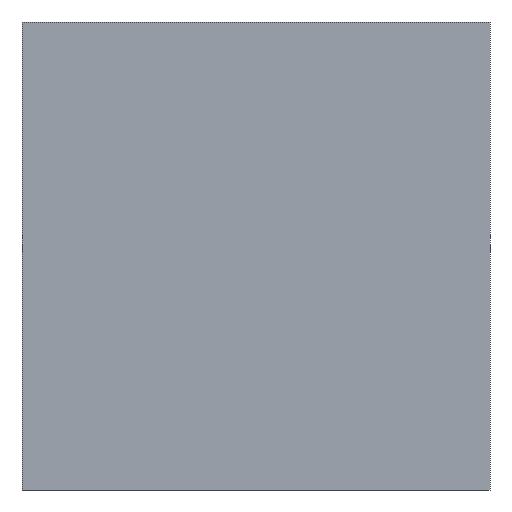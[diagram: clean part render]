
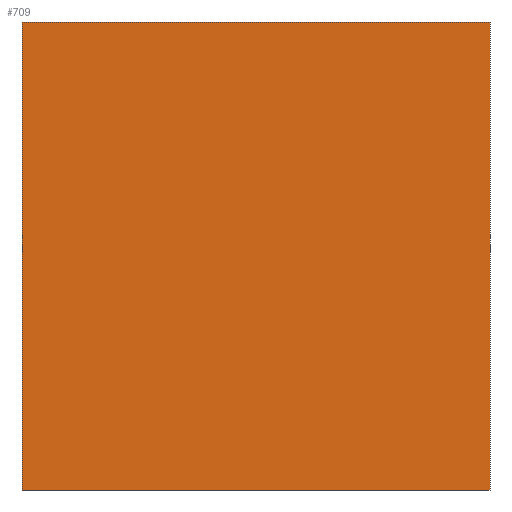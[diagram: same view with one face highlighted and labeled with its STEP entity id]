
A CAD part, left-side view. The second image highlights one B-rep face of the part: STEP entity #709.
In plain terms, the highlighted planar face has unit normal (-1, 0, 0).
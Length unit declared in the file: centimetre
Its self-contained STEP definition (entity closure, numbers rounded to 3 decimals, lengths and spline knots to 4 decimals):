
#53 = VERTEX_POINT ( 'NONE', #386 ) ;
#98 = CARTESIAN_POINT ( 'NONE',  ( 0., 0., 1000. ) ) ;
#141 = VECTOR ( 'NONE', #1006, 100. ) ;
#196 = CARTESIAN_POINT ( 'NONE',  ( 0., 0., 0. ) ) ;
#200 = FACE_OUTER_BOUND ( 'NONE', #493, .T. ) ;
#232 = DIRECTION ( 'NONE',  ( 0., -1., 0. ) ) ;
#264 = LINE ( 'NONE', #500, #489 ) ;
#265 = DIRECTION ( 'NONE',  ( 0., 0., -1. ) ) ;
#271 = LINE ( 'NONE', #438, #141 ) ;
#329 = ORIENTED_EDGE ( 'NONE', *, *, #906, .F. ) ;
#359 = VERTEX_POINT ( 'NONE', #926 ) ;
#386 = CARTESIAN_POINT ( 'NONE',  ( 0., 1000., 1000. ) ) ;
#387 = PLANE ( 'NONE',  #727 ) ;
#438 = CARTESIAN_POINT ( 'NONE',  ( 0., 1000., 1000. ) ) ;
#442 = VECTOR ( 'NONE', #232, 100. ) ;
#465 = DIRECTION ( 'NONE',  ( 0., 0., -1. ) ) ;
#480 = EDGE_CURVE ( 'NONE', #909, #1028, #264, .T. ) ;
#486 = ORIENTED_EDGE ( 'NONE', *, *, #480, .T. ) ;
#489 = VECTOR ( 'NONE', #637, 100. ) ;
#493 = EDGE_LOOP ( 'NONE', ( #486, #329, #825, #697 ) ) ;
#500 = CARTESIAN_POINT ( 'NONE',  ( 0., 1000., 0. ) ) ;
#508 = CARTESIAN_POINT ( 'NONE',  ( 0., 1000., 0. ) ) ;
#626 = LINE ( 'NONE', #942, #442 ) ;
#637 = DIRECTION ( 'NONE',  ( 0., -1., 0. ) ) ;
#697 = ORIENTED_EDGE ( 'NONE', *, *, #986, .T. ) ;
#709 = ADVANCED_FACE ( 'NONE', ( #200 ), #387, .F. ) ;
#727 = AXIS2_PLACEMENT_3D ( 'NONE', #868, #936, #465 ) ;
#793 = VECTOR ( 'NONE', #265, 100. ) ;
#816 = LINE ( 'NONE', #98, #793 ) ;
#825 = ORIENTED_EDGE ( 'NONE', *, *, #831, .F. ) ;
#831 = EDGE_CURVE ( 'NONE', #53, #359, #626, .T. ) ;
#868 = CARTESIAN_POINT ( 'NONE',  ( 0., 1000., 1000. ) ) ;
#906 = EDGE_CURVE ( 'NONE', #359, #1028, #816, .T. ) ;
#909 = VERTEX_POINT ( 'NONE', #508 ) ;
#926 = CARTESIAN_POINT ( 'NONE',  ( 0., 0., 1000. ) ) ;
#936 = DIRECTION ( 'NONE',  ( 1., 0., 0. ) ) ;
#942 = CARTESIAN_POINT ( 'NONE',  ( 0., 1000., 1000. ) ) ;
#986 = EDGE_CURVE ( 'NONE', #53, #909, #271, .T. ) ;
#1006 = DIRECTION ( 'NONE',  ( 0., 0., -1. ) ) ;
#1028 = VERTEX_POINT ( 'NONE', #196 ) ;
